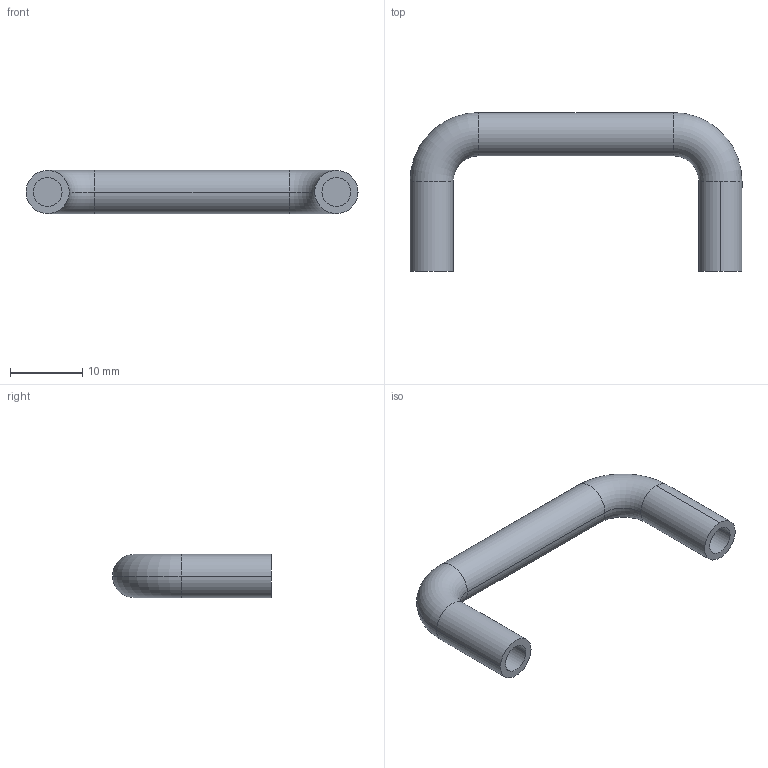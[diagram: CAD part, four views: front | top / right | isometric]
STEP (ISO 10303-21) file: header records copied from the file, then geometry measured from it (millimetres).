
FILE_DESCRIPTION (( 'STEP AP214' ), '1' );
FILE_NAME ('A84 KA-1251-2.STEP', '2012-02-22T01:56:49', ( '' ), ( '' ), 'SwSTEP 2.0', 'SolidWorks 2012', '' );
FILE_SCHEMA (( 'AUTOMOTIVE_DESIGN' ));
Length unit declared in the file: millimetre
Products named in the file (1): A84 KA-1251-2
Bounding box: 46 x 22 x 6 mm (x, y, z)
Volume: 1871.7 mm3; surface area: 1597.6 mm2
Topology: 1 solids, 1 shells, 18 faces, 36 edges, 22 vertices
Faces by surface type: cylinder 10, torus 4, plane 4
Entity records: 512 total; most frequent: DIRECTION 100, CARTESIAN_POINT 77, ORIENTED_EDGE 72, AXIS2_PLACEMENT_3D 45, EDGE_CURVE 36, CIRCLE 26, VERTEX_POINT 22, EDGE_LOOP 20
